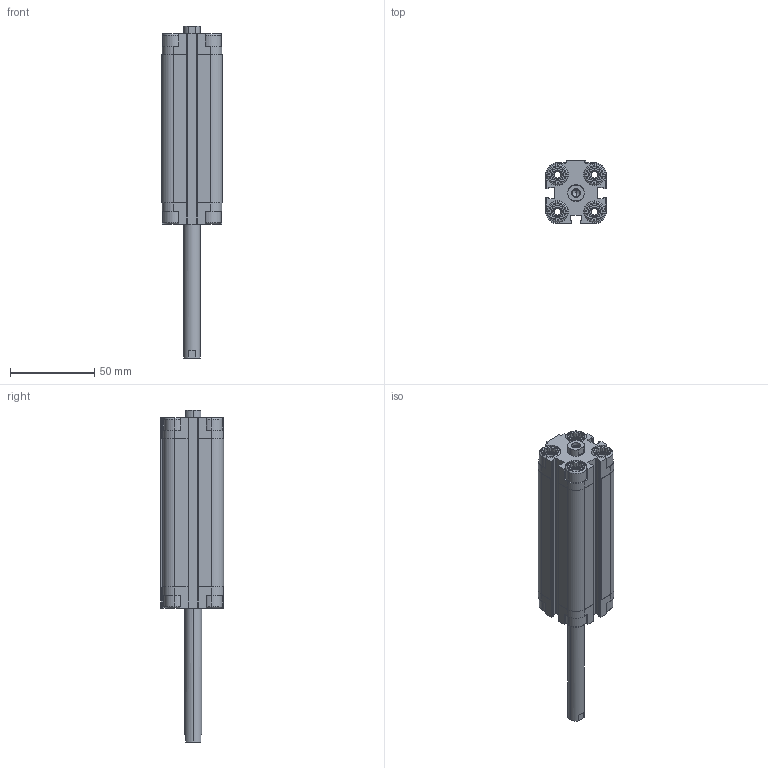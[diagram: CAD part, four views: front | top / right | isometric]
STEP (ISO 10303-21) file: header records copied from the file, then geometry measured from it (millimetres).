
FILE_DESCRIPTION (( 'STEP AP203' ), '1' );
FILE_NAME ('CDVU20-75F-P.STEP', '2020-07-24T18:07:44', ( '' ), ( '' ), 'SwSTEP 2.0', 'SolidWorks 2019', '' );
FILE_SCHEMA (( 'CONFIG_CONTROL_DESIGN' ));
Length unit declared in the file: millimetre
Products named in the file (1): CDVU20-75F-P
Bounding box: 36 x 37.5 x 197 mm (x, y, z)
Volume: 100296.6 mm3; surface area: 48691.1 mm2
Topology: 2 solids, 2 shells, 606 faces, 1598 edges, 1032 vertices
Faces by surface type: plane 358, cylinder 184, cone 48, torus 16
Entity records: 18877 total; most frequent: CARTESIAN_POINT 3805, ORIENTED_EDGE 3180, DIRECTION 3060, EDGE_CURVE 1590, AXIS2_PLACEMENT_3D 1055, VERTEX_POINT 1032, VECTOR 950, LINE 950
